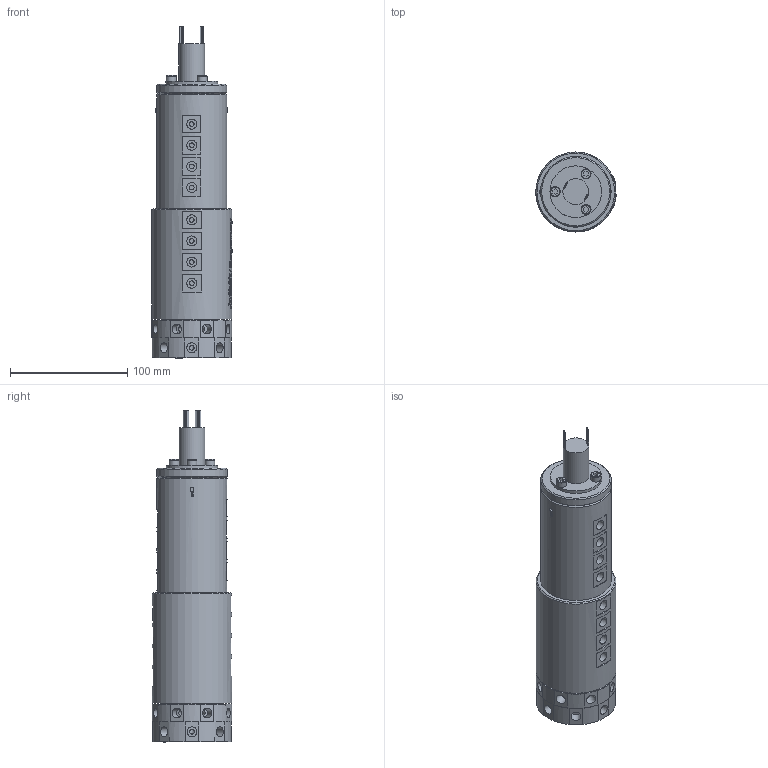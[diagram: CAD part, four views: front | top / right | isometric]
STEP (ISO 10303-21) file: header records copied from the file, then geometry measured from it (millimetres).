
FILE_DESCRIPTION(/* description */ (''),/* implementation_level */ '2;1');
FILE_NAME(/* name */ 'YQ1801-24M.stp',/* time_stamp */ '2025-02-15T15:39:30+08:00',/* author */ (''),/* organization */ (''),/* preprocessor_version */ 'ST-DEVELOPER v16.7',/* originating_system */ 'SIEMENS PLM Software NX 12.0',/* authorisation */ '');
FILE_SCHEMA (('AUTOMOTIVE_DESIGN { 1 0 10303 214 3 1 1 1 }'));
Products named in the file (1): HX0527348ECCpclw
Bounding box: 68.42 x 68 x 282.8 mm (x, y, z)
Volume: 734220.9 mm3; surface area: 92770.1 mm2
Topology: 1 solids, 12 shells, 1545 faces, 3993 edges, 2703 vertices
Faces by surface type: extrusion 671, plane 625, cylinder 201, bspline 33, cone 12, torus 3
Full cylindrical faces by diameter (mm): 0.8 x16, 3.4 x10, 4 x56, 4.1 x16, 4.2 x16, 5 x3, 5.5 x3, 7.8 x1, 8 x1, 8.5 x35, 22 x1, 44 x1, 47 x1, 60 x2, 68 x2
Entity records: 54380 total; most frequent: CARTESIAN_POINT 22446, ORIENTED_EDGE 7350, DIRECTION 4140, EDGE_CURVE 3675, B_SPLINE_CURVE_WITH_KNOTS 3112, VERTEX_POINT 2585, EDGE_LOOP 1968, ADVANCED_FACE 1542
